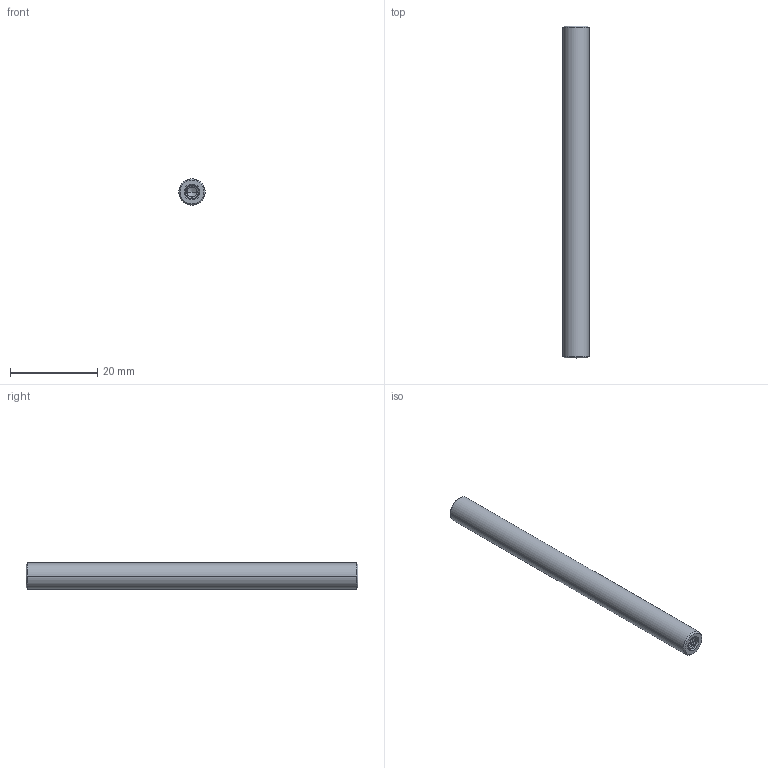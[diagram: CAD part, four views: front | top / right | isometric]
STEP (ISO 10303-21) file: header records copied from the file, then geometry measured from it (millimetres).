
FILE_DESCRIPTION((''),'2;1');
FILE_NAME('PCM-S_76','2021-04-19T',('Administrator'),(''),'CREO PARAMETRIC BY PTC INC, 2015290','CREO PARAMETRIC BY PTC INC, 2015290','');
FILE_SCHEMA(('CONFIG_CONTROL_DESIGN'));
Length unit declared in the file: millimetre
Products named in the file (1): PCM-S_76
Bounding box: 6 x 76 x 6 mm (x, y, z)
Volume: 2055.5 mm3; surface area: 1691.7 mm2
Topology: 1 solids, 1 shells, 93 faces, 253 edges, 160 vertices
Faces by surface type: cylinder 55, bspline 24, cone 12, plane 2
Entity records: 6937 total; most frequent: CARTESIAN_POINT 4916, ORIENTED_EDGE 498, DIRECTION 266, EDGE_CURVE 249, VERTEX_POINT 160, B_SPLINE_CURVE_WITH_KNOTS 141, EDGE_LOOP 95, FACE_OUTER_BOUND 93
